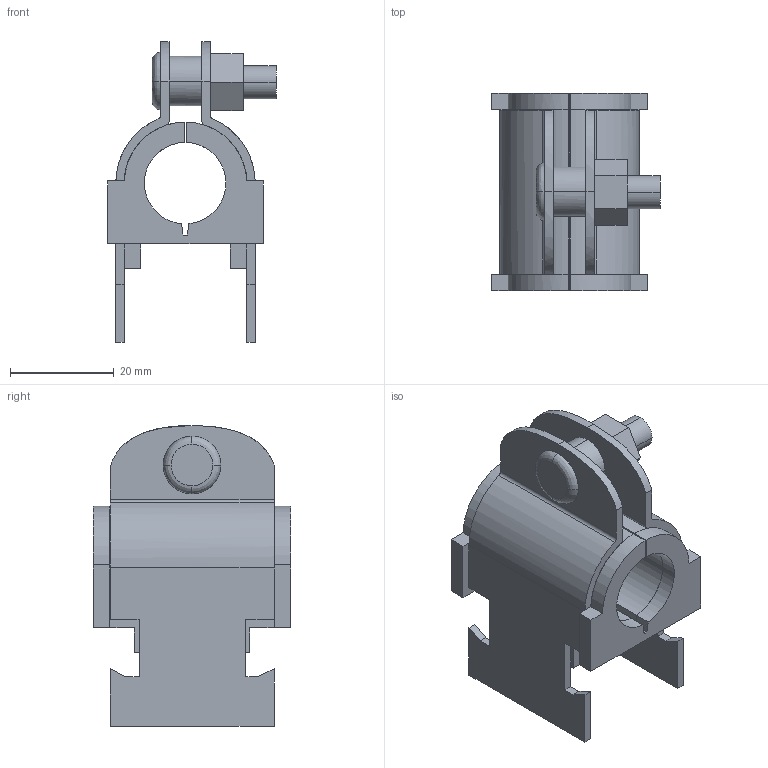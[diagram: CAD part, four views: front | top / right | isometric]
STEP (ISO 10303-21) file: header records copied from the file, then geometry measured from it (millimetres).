
FILE_DESCRIPTION(('TurboCAD Mac Pro'),'Build 980');
FILE_NAME('010T014.stp',' ',(''),(''),'ACIS Interop','IMSI','TurboCAD Mac Pro BY IMSI, INCORPORATED');
FILE_SCHEMA(('automotive_design'));
Length unit declared in the file: inch
Products named in the file (2): 1; 2
Bounding box: 32.52 x 38.1 x 58.13 mm (x, y, z)
Volume: 19834.7 mm3; surface area: 15243.2 mm2
Topology: 2 solids, 2 shells, 148 faces, 395 edges, 256 vertices
Faces by surface type: plane 102, bspline 46
Entity records: 7096 total; most frequent: CARTESIAN_POINT 1785, ORIENTED_EDGE 790, DIRECTION 493, EDGE_CURVE 395, STYLED_ITEM 302, PRESENTATION_STYLE_ASSIGNMENT 302, COLOUR_RGB 302, LINE 277
